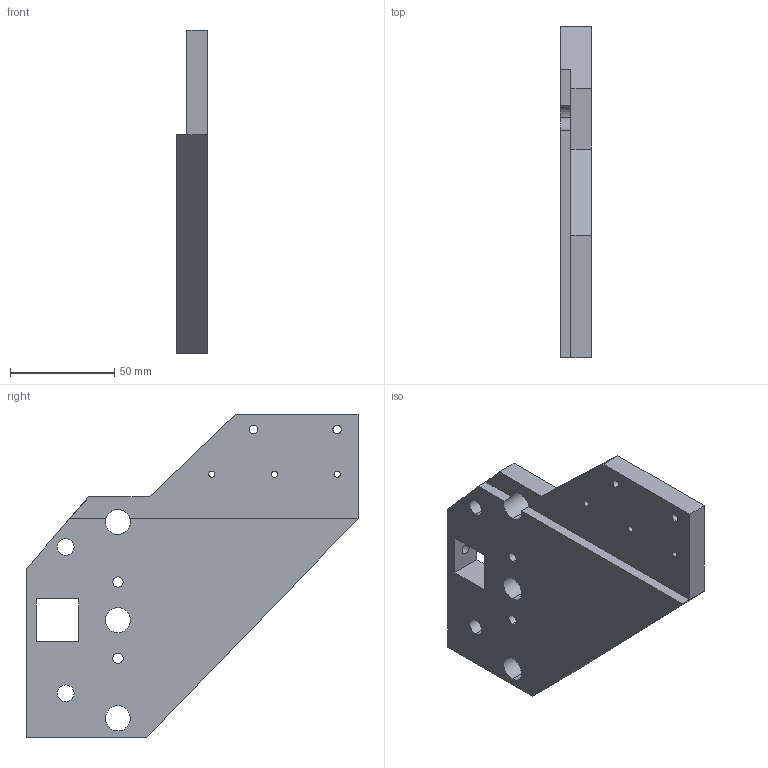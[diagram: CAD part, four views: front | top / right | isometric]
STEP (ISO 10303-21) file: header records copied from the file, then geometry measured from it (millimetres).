
FILE_DESCRIPTION (( 'STEP AP203' ), '1' );
FILE_NAME ('PORTAL bearing 1LL.STEP', '2023-07-14T06:21:38', ( '' ), ( '' ), 'SwSTEP 2.0', 'SolidWorks 2014', '' );
FILE_SCHEMA (( 'CONFIG_CONTROL_DESIGN' ));
Length unit declared in the file: millimetre
Products named in the file (1): PORTAL bearing 1LL
Bounding box: 15 x 158.93 x 154.83 mm (x, y, z)
Volume: 197329.6 mm3; surface area: 41813.3 mm2
Topology: 1 solids, 1 shells, 78 faces, 215 edges, 143 vertices
Faces by surface type: plane 52, cylinder 26
Entity records: 2618 total; most frequent: CARTESIAN_POINT 437, ORIENTED_EDGE 430, DIRECTION 427, EDGE_CURVE 215, VECTOR 161, LINE 161, VERTEX_POINT 143, AXIS2_PLACEMENT_3D 133
